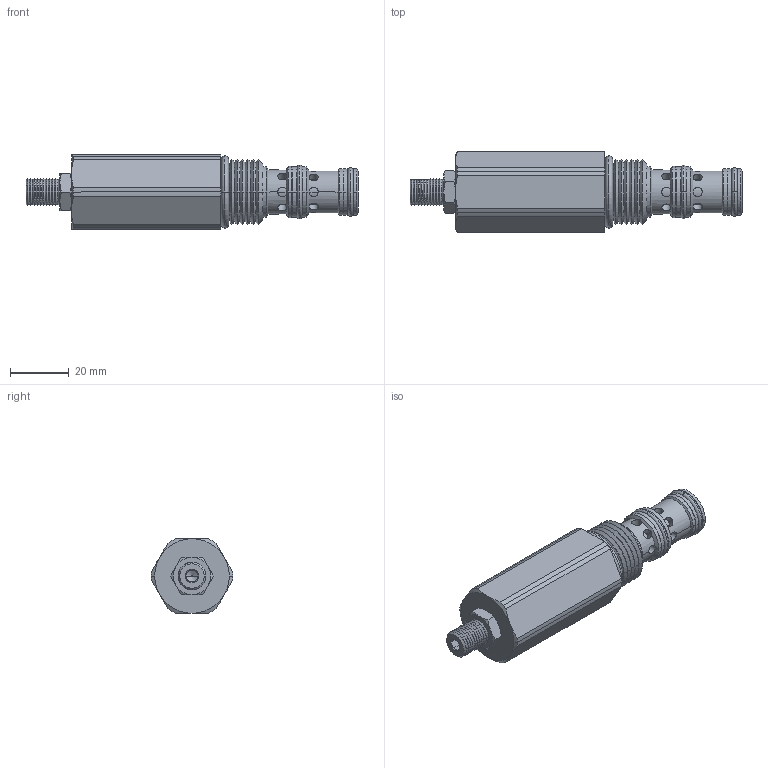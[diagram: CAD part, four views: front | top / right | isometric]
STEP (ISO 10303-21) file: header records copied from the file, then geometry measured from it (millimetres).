
FILE_DESCRIPTION((''),'2;1');
FILE_NAME('U:\Solid model CD\Solid model full\Mechanical\STEP\DFPWI00-3D Full.stp','2008-07-29T09:22:14',('Dan'),(''),'Autodesk Inventor 9','Autodesk Inventor 9','');
FILE_SCHEMA(('AUTOMOTIVE_DESIGN { 1 0 10303 214 1 1 1 1 }'));
Length unit declared in the file: inch
Products named in the file (7): DFPWI00-3D Full; DFPWI00-3D Full1; DFPWI00-3D Full2; DFPWI00-3D Full3; DFPWI00-3D Full4; DFPWI00-3D Full5; DFPWI00-3D Full6
Assembly tree (6 placements, depth 2):
  DFPWI00-3D Full
    DFPWI00-3D Full1
    DFPWI00-3D Full2
    DFPWI00-3D Full3
    DFPWI00-3D Full4
    DFPWI00-3D Full5
    DFPWI00-3D Full6
Bounding box: 112.95 x 27.69 x 25.4 mm (x, y, z)
Volume: 39404.2 mm3; surface area: 11628.1 mm2
Topology: 6 solids, 6 shells, 268 faces, 613 edges, 369 vertices
Faces by surface type: cone 112, cylinder 96, plane 42, bspline 10, torus 8
Entity records: 8843 total; most frequent: CARTESIAN_POINT 2873, ORIENTED_EDGE 1226, DIRECTION 1223, EDGE_CURVE 613, AXIS2_PLACEMENT_3D 511, VERTEX_POINT 369, EDGE_LOOP 290, FACE_OUTER_BOUND 268
